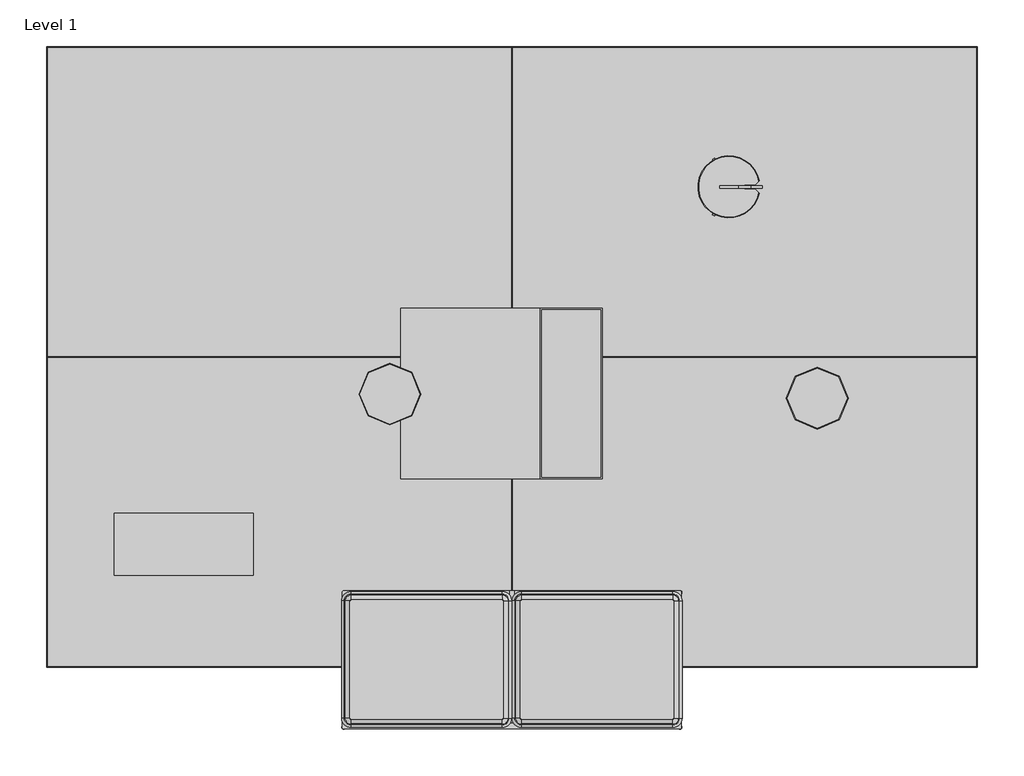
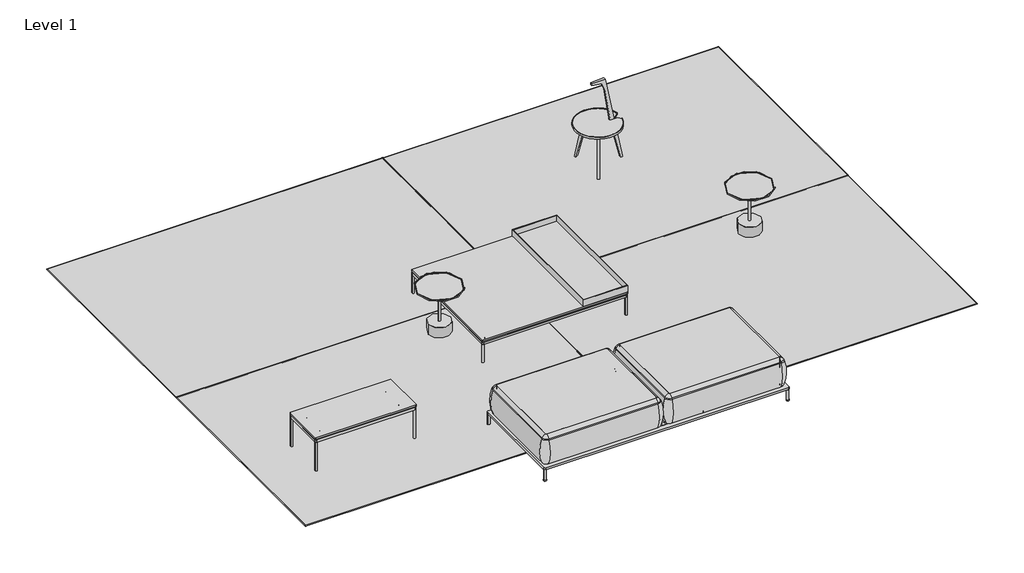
# One storey, incomplete: 10 furniture elements.
"""IFC4 building model written with IfcOpenShell, lengths in millimetres."""

from ifc_helpers import new_model, si_unit, origin, place, context, project, spatial, transform, mapped, element, save
from components import furniture_8a22b242, furniture_aebbd6c7, haworth_9_occasionaltable_6362c3d7, haworth_mex_hi_occasionaltable_large_with_stone_top_and_wood_ebb3eda0, haworth_mex_hi_occasionaltable_small_with_stone_top_e584b05a, haworth_mex_hi_widebench_wide_two_seats_bench_22a17a26, haworth_mex_hi_widebench_wide_two_seats_bench_e05f9d58, haworth_mex_hi_widebench_wide_two_seats_bench_a20557b4

model = new_model("IFC4")

# Units and contexts
model_context = context("Model", 3, world=origin())
ifc_project = project(units=[si_unit("LENGTHUNIT", "METRE", prefix="MILLI")], contexts=[model_context])

# Site, building, storey
site = spatial("IfcSite", under=ifc_project)
building = spatial("IfcBuilding", under=site)
storey = spatial("IfcBuildingStorey", under=building, Name="Level 1", Elevation=0.0)

# Furniture
placement = place(None, origin())
furniture_shape = furniture_8a22b242(model_context)
element("IfcFurniture", 1, ObjectType="Haworth_Cicognino_OccasionalTable : Cicognino Occasional Table", at=placement, inside=storey, context=model_context, shape_type="MappedRepresentation", body=[
    mapped(furniture_shape, transform((1810.1613817, 1396.0644412, 0.0), x_axis=(1.0, 0.0, 0.0), y_axis=(0.0, 1.0, 0.0), z_axis=(0.0, 0.0, 1.0))),
])
furniture_2_shape = furniture_aebbd6c7(model_context)
element("IfcFurniture", 2, ObjectType="Haworth_MangasNatural_Rugs : HCGN-MNT Area Rug", at=placement, inside=storey, context=model_context, shape_type="MappedRepresentation", body=[
    mapped(furniture_2_shape, transform((-2629.3555923, 1237.705072, 0.0), x_axis=(1.0, 0.0, 0.0), y_axis=(0.0, 1.0, 0.0), z_axis=(0.0, 0.0, 1.0))),
])
element("IfcFurniture", 3, ObjectType="Haworth_MangasNatural_Rugs : HCGN-MNT Area Rug", at=placement, inside=storey, context=model_context, shape_type="MappedRepresentation", body=[
    mapped(furniture_2_shape, transform((370.4240952, 1237.705072, 0.0), x_axis=(1.0, 0.0, 0.0), y_axis=(0.0, 1.0, 0.0), z_axis=(0.0, 0.0, 1.0))),
])
element("IfcFurniture", 4, ObjectType="Haworth_MangasNatural_Rugs : HCGN-MNT Area Rug", at=placement, inside=storey, context=model_context, shape_type="MappedRepresentation", body=[
    mapped(furniture_2_shape, transform((-2629.3555923, -761.2550842, 0.0), x_axis=(1.0, 0.0, 0.0), y_axis=(0.0, 1.0, 0.0), z_axis=(0.0, 0.0, 1.0))),
])
element("IfcFurniture", 5, ObjectType="Haworth_MangasNatural_Rugs : HCGN-MNT Area Rug", at=placement, inside=storey, context=model_context, shape_type="MappedRepresentation", body=[
    mapped(furniture_2_shape, transform((370.4240952, -761.2550842, 0.0), x_axis=(1.0, 0.0, 0.0), y_axis=(0.0, 1.0, 0.0), z_axis=(0.0, 0.0, 1.0))),
])
haworth_9_occasionaltable_shape = haworth_9_occasionaltable_6362c3d7(model_context)
element("IfcFurniture", 6, ObjectType="Haworth_9_OccasionalTable : Low Occasional Table -  Stone Top And Base", at=placement, inside=storey, context=model_context, shape_type="MappedRepresentation", body=[
    mapped(haworth_9_occasionaltable_shape, transform((-561.0974461, 289.6961988, 0.0), x_axis=(1.0, 0.0, 0.0), y_axis=(0.0, 1.0, 0.0), z_axis=(0.0, 0.0, 1.0))),
])
element("IfcFurniture", 7, ObjectType="Haworth_9_OccasionalTable : Low Occasional Table -  Stone Top And Base", at=placement, inside=storey, context=model_context, shape_type="MappedRepresentation", body=[
    mapped(haworth_9_occasionaltable_shape, transform((2197.2397869, 263.7136702, 0.0), x_axis=(1.0, 0.0, 0.0), y_axis=(0.0, 1.0, 0.0), z_axis=(0.0, 0.0, 1.0))),
])
haworth_mex_hi_occasionaltable_large_with_stone_top_and_wood_shape = haworth_mex_hi_occasionaltable_large_with_stone_top_and_wood_ebb3eda0(model_context)
element("IfcFurniture", 8, ObjectType="Haworth_Mex-Hi_OccasionalTable : Large with Stone Top and Wood Tray", at=placement, inside=storey, context=model_context, shape_type="MappedRepresentation", body=[
    mapped(haworth_mex_hi_occasionaltable_large_with_stone_top_and_wood_shape, transform((158.9249375, 293.4392695, 0.0), x_axis=(1.0, 0.0, 0.0), y_axis=(0.0, 1.0, 0.0), z_axis=(0.0, 0.0, 1.0))),
])
haworth_mex_hi_occasionaltable_small_with_stone_top_shape = haworth_mex_hi_occasionaltable_small_with_stone_top_e584b05a(model_context)
element("IfcFurniture", 9, ObjectType="Haworth_Mex-Hi_OccasionalTable : Small with Stone Top", at=placement, inside=storey, context=model_context, shape_type="MappedRepresentation", body=[
    mapped(haworth_mex_hi_occasionaltable_small_with_stone_top_shape, transform((-1891.8080637, -678.9888944, 0.0), x_axis=(1.0, 0.0, 0.0), y_axis=(0.0, 1.0, 0.0), z_axis=(0.0, 0.0, 1.0))),
])
haworth_mex_hi_widebench_wide_two_seats_bench_shape = haworth_mex_hi_widebench_wide_two_seats_bench_22a17a26(model_context)
haworth_mex_hi_widebench_wide_two_seats_bench_2_shape = haworth_mex_hi_widebench_wide_two_seats_bench_e05f9d58(model_context)
haworth_mex_hi_widebench_wide_two_seats_bench_3_shape = haworth_mex_hi_widebench_wide_two_seats_bench_a20557b4(model_context)
element("IfcFurniture", 10, ObjectType="Haworth_Mex-Hi_WideBench : Wide Two Seats Bench", at=placement, inside=storey, context=model_context, shape_type="MappedRepresentation", body=[
    mapped(haworth_mex_hi_widebench_wide_two_seats_bench_shape, transform((225.1129422, -1426.4481421, 0.0), x_axis=(1.0, 0.0, 0.0), y_axis=(0.0, 1.0, 0.0), z_axis=(0.0, 0.0, 1.0))),
    mapped(haworth_mex_hi_widebench_wide_two_seats_bench_2_shape, transform((225.1129422, -1426.4481421, 0.0), x_axis=(1.0, 0.0, 0.0), y_axis=(0.0, 1.0, 0.0), z_axis=(0.0, 0.0, 1.0))),
    mapped(haworth_mex_hi_widebench_wide_two_seats_bench_3_shape, transform((225.1129422, -1426.4481421, 0.0), x_axis=(1.0, 0.0, 0.0), y_axis=(0.0, 1.0, 0.0), z_axis=(0.0, 0.0, 1.0))),
])

save(model, "model.ifc")
